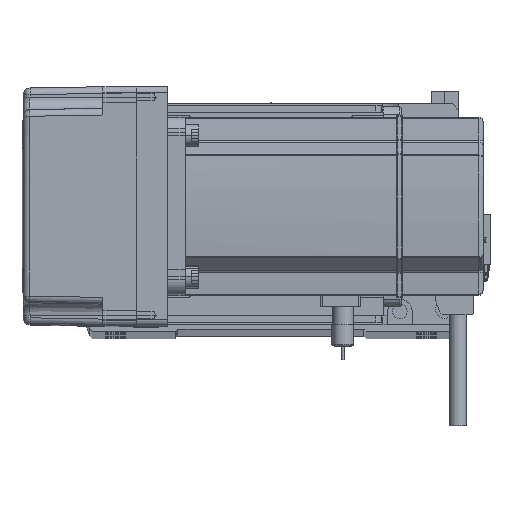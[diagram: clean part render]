
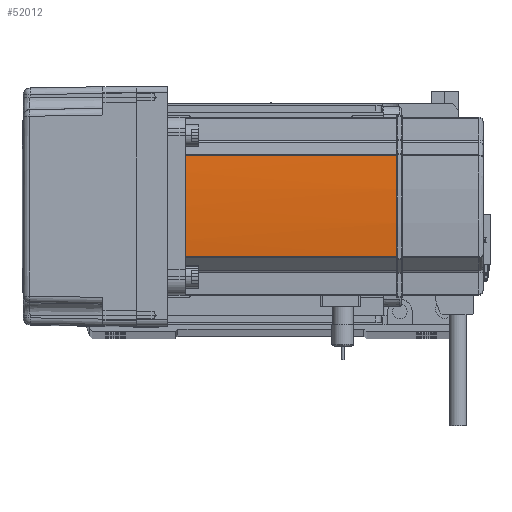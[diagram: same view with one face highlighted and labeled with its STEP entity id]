
A CAD part, top view. The second image highlights one B-rep face of the part: STEP entity #52012.
In plain terms, the highlighted cylindrical face has radius 270 mm (diameter 540 mm), a partial arc.
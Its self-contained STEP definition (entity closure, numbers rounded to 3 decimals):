
#767 = EDGE_CURVE ( 'NONE', #9515, #3097, #19842, .T. ) ;
#1393 = VERTEX_POINT ( 'NONE', #42528 ) ;
#2436 = AXIS2_PLACEMENT_3D ( 'NONE', #9069, #22895, #51856 ) ;
#3097 = VERTEX_POINT ( 'NONE', #20839 ) ;
#3443 = VERTEX_POINT ( 'NONE', #15462 ) ;
#3990 = CARTESIAN_POINT ( 'NONE',  ( -230., 0., 58. ) ) ;
#5158 = ORIENTED_EDGE ( 'NONE', *, *, #18956, .F. ) ;
#5650 = VERTEX_POINT ( 'NONE', #24927 ) ;
#5944 = ORIENTED_EDGE ( 'NONE', *, *, #767, .T. ) ;
#5973 = DIRECTION ( 'NONE',  ( 0., 0., -1. ) ) ;
#6239 = ORIENTED_EDGE ( 'NONE', *, *, #58546, .F. ) ;
#9069 = CARTESIAN_POINT ( 'NONE',  ( -230., 0., 134. ) ) ;
#9138 = DIRECTION ( 'NONE',  ( -1., 0., 0. ) ) ;
#9515 = VERTEX_POINT ( 'NONE', #50123 ) ;
#11029 = AXIS2_PLACEMENT_3D ( 'NONE', #3990, #13529, #26689 ) ;
#12325 = CARTESIAN_POINT ( 'NONE',  ( 39.042, 22.724, 58. ) ) ;
#13529 = DIRECTION ( 'NONE',  ( 0., 0., -1. ) ) ;
#15160 = ORIENTED_EDGE ( 'NONE', *, *, #51797, .T. ) ;
#15462 = CARTESIAN_POINT ( 'NONE',  ( 40., -0.127, 134. ) ) ;
#17670 = EDGE_LOOP ( 'NONE', ( #40103, #6239, #15160, #5944, #5158, #26012 ) ) ;
#18956 = EDGE_CURVE ( 'NONE', #3443, #3097, #32201, .T. ) ;
#19842 = CIRCLE ( 'NONE', #24423, 270. ) ;
#19870 = CIRCLE ( 'NONE', #31088, 270. ) ;
#20839 = CARTESIAN_POINT ( 'NONE',  ( 40., 0.127, 134. ) ) ;
#21577 = LINE ( 'NONE', #12325, #43781 ) ;
#22447 = DIRECTION ( 'NONE',  ( 0., 0., -1. ) ) ;
#22895 = DIRECTION ( 'NONE',  ( 0., 0., -1. ) ) ;
#24298 = DIRECTION ( 'NONE',  ( -1., 0., 0. ) ) ;
#24423 = AXIS2_PLACEMENT_3D ( 'NONE', #26891, #55825, #9138 ) ;
#24927 = CARTESIAN_POINT ( 'NONE',  ( 39.042, 22.724, 39. ) ) ;
#26012 = ORIENTED_EDGE ( 'NONE', *, *, #45088, .T. ) ;
#26689 = DIRECTION ( 'NONE',  ( -1., 0., 0. ) ) ;
#26891 = CARTESIAN_POINT ( 'NONE',  ( -230., 0., 134. ) ) ;
#30617 = DIRECTION ( 'NONE',  ( 0., 0., 1. ) ) ;
#31088 = AXIS2_PLACEMENT_3D ( 'NONE', #38388, #5973, #24298 ) ;
#32201 = B_SPLINE_CURVE_WITH_KNOTS ( 'NONE', 3,
 ( #61201, #32850, #37015, #46553 ),
 .UNSPECIFIED., .F., .F.,
 ( 4, 4 ),
 ( 0., 1. ),
 .UNSPECIFIED. ) ;
#32850 = CARTESIAN_POINT ( 'NONE',  ( 40., -0.042, 134. ) ) ;
#34877 = VERTEX_POINT ( 'NONE', #51101 ) ;
#37015 = CARTESIAN_POINT ( 'NONE',  ( 40., 0.042, 134. ) ) ;
#38388 = CARTESIAN_POINT ( 'NONE',  ( -230., 0., 39. ) ) ;
#39079 = EDGE_CURVE ( 'NONE', #34877, #1393, #51323, .T. ) ;
#40103 = ORIENTED_EDGE ( 'NONE', *, *, #39079, .T. ) ;
#41513 = FACE_OUTER_BOUND ( 'NONE', #17670, .T. ) ;
#42528 = CARTESIAN_POINT ( 'NONE',  ( 39.042, -22.724, 39. ) ) ;
#43781 = VECTOR ( 'NONE', #30617, 1000. ) ;
#45088 = EDGE_CURVE ( 'NONE', #3443, #34877, #48696, .T. ) ;
#45218 = CYLINDRICAL_SURFACE ( 'NONE', #11029, 270. ) ;
#46553 = CARTESIAN_POINT ( 'NONE',  ( 40., 0.127, 134. ) ) ;
#48696 = CIRCLE ( 'NONE', #2436, 270. ) ;
#50123 = CARTESIAN_POINT ( 'NONE',  ( 39.042, 22.724, 134. ) ) ;
#51101 = CARTESIAN_POINT ( 'NONE',  ( 39.042, -22.724, 134. ) ) ;
#51323 = LINE ( 'NONE', #59470, #54986 ) ;
#51797 = EDGE_CURVE ( 'NONE', #5650, #9515, #21577, .T. ) ;
#51856 = DIRECTION ( 'NONE',  ( -1., 0., 0. ) ) ;
#52012 = ADVANCED_FACE ( 'NONE', ( #41513 ), #45218, .T. ) ;
#54986 = VECTOR ( 'NONE', #22447, 1000. ) ;
#55825 = DIRECTION ( 'NONE',  ( 0., 0., -1. ) ) ;
#58546 = EDGE_CURVE ( 'NONE', #5650, #1393, #19870, .T. ) ;
#59470 = CARTESIAN_POINT ( 'NONE',  ( 39.042, -22.724, 58. ) ) ;
#61201 = CARTESIAN_POINT ( 'NONE',  ( 40., -0.127, 134. ) ) ;
